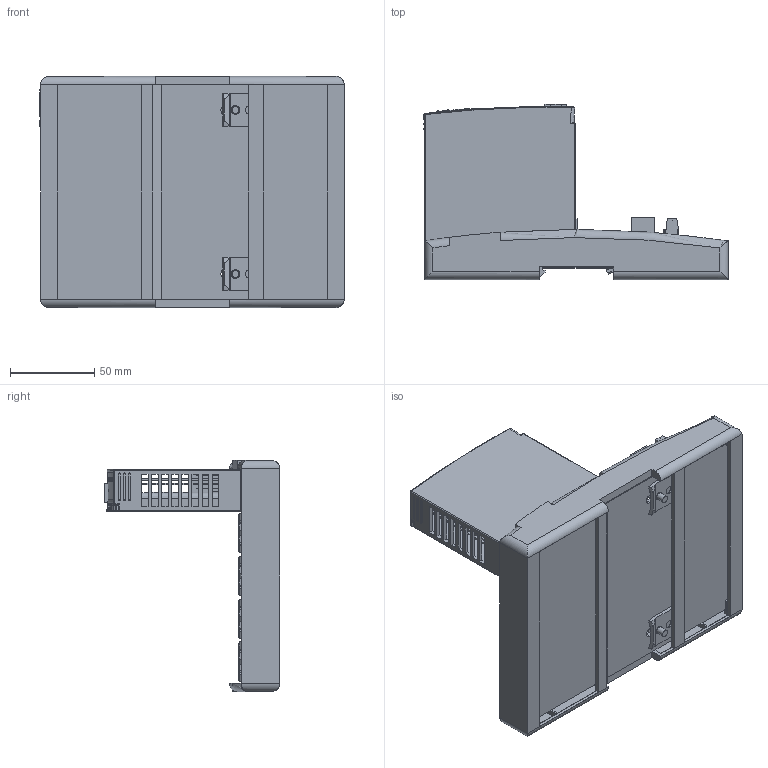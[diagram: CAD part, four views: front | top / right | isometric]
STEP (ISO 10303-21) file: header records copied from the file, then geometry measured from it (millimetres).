
FILE_DESCRIPTION((''),'2;1');
FILE_NAME('2500_4W_BLANK_IGESFILE','2012-04-11T',('chrisloe'),(''),'PRO/ENGINEER BY PARAMETRIC TECHNOLOGY CORPORATION, 2010180','PRO/ENGINEER BY PARAMETRIC TECHNOLOGY CORPORATION, 2010180','');
FILE_SCHEMA(('CONFIG_CONTROL_DESIGN'));
Products named in the file (1): 2500_4W_BLANK_IGESFILE
Bounding box: 180.4 x 104.1 x 137 mm (x, y, z)
Volume: 200809.8 mm3; surface area: 178567.6 mm2
Topology: 2 solids, 14 shells, 3247 faces, 9138 edges, 5863 vertices
Faces by surface type: plane 2459, cylinder 532, cone 111, bspline 78, torus 51, sphere 16
Entity records: 109128 total; most frequent: CARTESIAN_POINT 26594, ORIENTED_EDGE 18220, DIRECTION 15666, EDGE_CURVE 9114, VECTOR 6428, LINE 6428, VERTEX_POINT 5863, AXIS2_PLACEMENT_3D 4619
